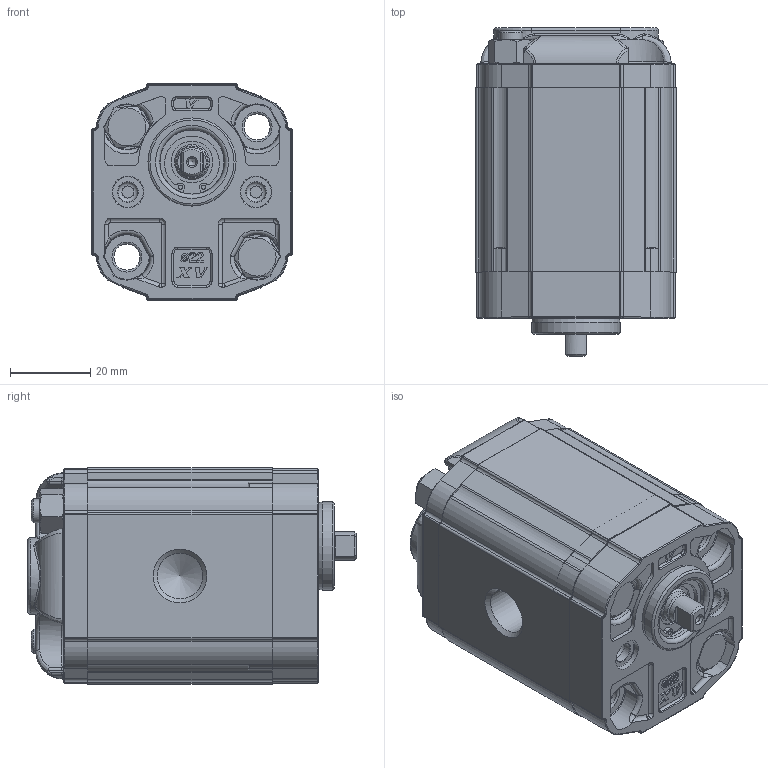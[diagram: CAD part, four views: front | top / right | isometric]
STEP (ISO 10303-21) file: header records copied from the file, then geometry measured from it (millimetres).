
FILE_DESCRIPTION( ( 'Unknown' ), '1' );
FILE_NAME( 'P:/montaggio_easy/output/STP/X0R1307BBBE.stp', 'Unknown', ( 'Unknown' ), ( 'Unknown' ), 'PSStep 14.0', 'Unknown', ' ' );
FILE_SCHEMA( ( 'AUTOMOTIVE_DESIGN { 1 0 10303 214 1 1 1 1 }' ) );
Length unit declared in the file: millimetre
Products named in the file (5): Assem1; X0R07; 0B; X0BBH46; XR012-E
Bounding box: 50 x 82 x 54 mm (x, y, z)
Surface area: 73145.5 mm2
Topology: 8 solids, 10 shells, 1736 faces, 4472 edges, 2788 vertices
Faces by surface type: plane 714, cylinder 520, torus 188, bspline 132, cone 88, extrusion 78, sphere 16
Full cylindrical faces by diameter (mm): 1.053 x4, 2 x2, 5 x4, 6 x4, 6.5 x12, 7.16 x2, 7.5 x4, 7.9 x4, 7.92 x2, 8 x4, 9.318 x2, 10 x4, 10.445 x2, 11 x2, 11.445 x6, 14 x2, 16 x2, 16.2 x2, 16.8 x2, 22 x2
Entity records: 37969 total; most frequent: CARTESIAN_POINT 10381, DIRECTION 4322, ORIENTED_EDGE 4232, EDGE_CURVE 2116, AXIS2_PLACEMENT_3D 1608, VERTEX_POINT 1365, VECTOR 1106, LINE 1067
